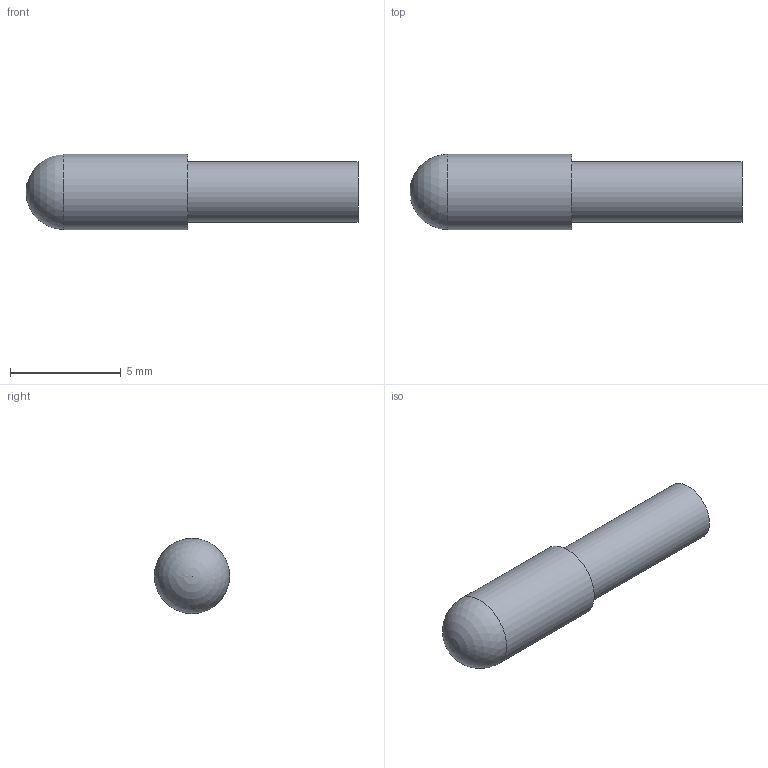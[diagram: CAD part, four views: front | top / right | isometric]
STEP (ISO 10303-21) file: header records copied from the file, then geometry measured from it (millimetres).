
FILE_DESCRIPTION( ( 'STEP AP203' ), '1' );
FILE_NAME( 'C:/Temp/Ganter_Step_05_03_2020/data/3_1/gn610/Spring loaded shell GN 610-3,4-15-H.stp', '2020-03-12T08:33:18', ( 'License CC BY-ND 4.0' ), ( 'CADENAS' ), ' ', 'PARTsolutions', ' ' );
FILE_SCHEMA( ( 'CONFIG_CONTROL_DESIGN' ) );
Length unit declared in the file: millimetre
Products named in the file (1): _Spring loaded shell GN 610-3,4-15-H
Bounding box: 15 x 3.4 x 3.4 mm (x, y, z)
Volume: 67.5 mm3; surface area: 213.8 mm2
Topology: 1 solids, 1 shells, 7 faces, 12 edges, 8 vertices
Faces by surface type: cylinder 3, plane 3, sphere 1
Full cylindrical faces by diameter (mm): 2.52 x1, 2.72 x1, 3.4 x1
Entity records: 182 total; most frequent: DIRECTION 28, CARTESIAN_POINT 21, AXIS2_PLACEMENT_3D 14, EDGE_LOOP 12, ORIENTED_EDGE 12, FACE_OUTER_BOUND 10, ADVANCED_FACE 7, VERTEX_POINT 7
